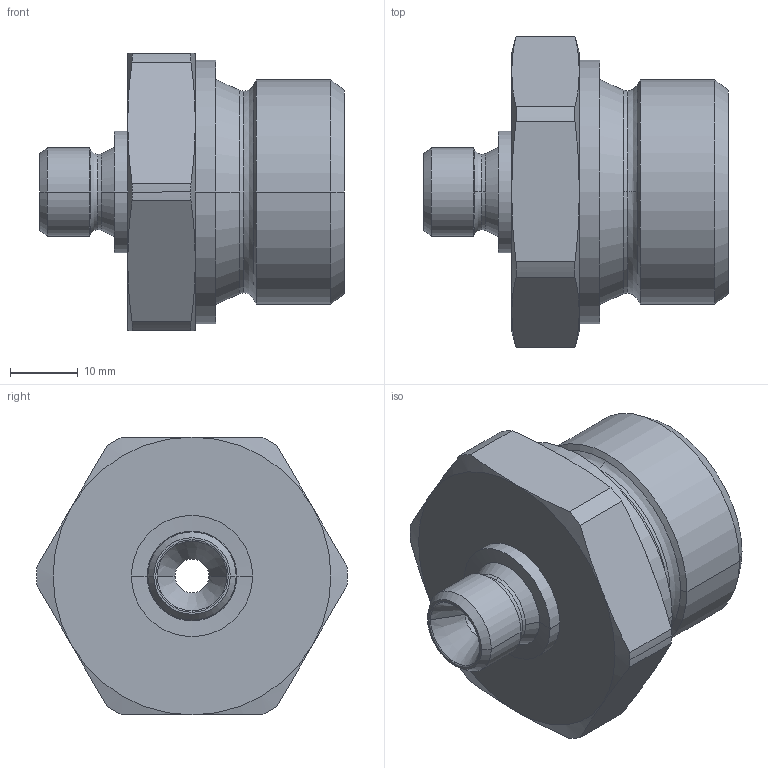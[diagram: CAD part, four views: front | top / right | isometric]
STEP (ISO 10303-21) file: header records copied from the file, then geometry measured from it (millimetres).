
FILE_DESCRIPTION((''),'2;1');
FILE_NAME('300534.stp','2006-09-11T08:16:32',(''),(''),'AutoCAD STEP 2000i','AutoCAD 2000i',', , ');
FILE_SCHEMA(('CONFIG_CONTROL_DESIGN'));
Length unit declared in the file: millimetre
Products named in the file (2): 300534.0; CHIAVE SMUSSATA#0
Assembly tree (1 placements, depth 2):
  300534.0
    CHIAVE SMUSSATA#0
Bounding box: 45 x 45.9 x 41 mm (x, y, z)
Volume: 23704 mm3; surface area: 8964.5 mm2
Topology: 1 solids, 1 shells, 76 faces, 178 edges, 106 vertices
Faces by surface type: cone 34, cylinder 20, plane 10, bspline 8, torus 4
Entity records: 2593 total; most frequent: CARTESIAN_POINT 762, DIRECTION 400, ORIENTED_EDGE 356, EDGE_CURVE 178, AXIS2_PLACEMENT_3D 176, VERTEX_POINT 106, CIRCLE 106, EDGE_LOOP 80
